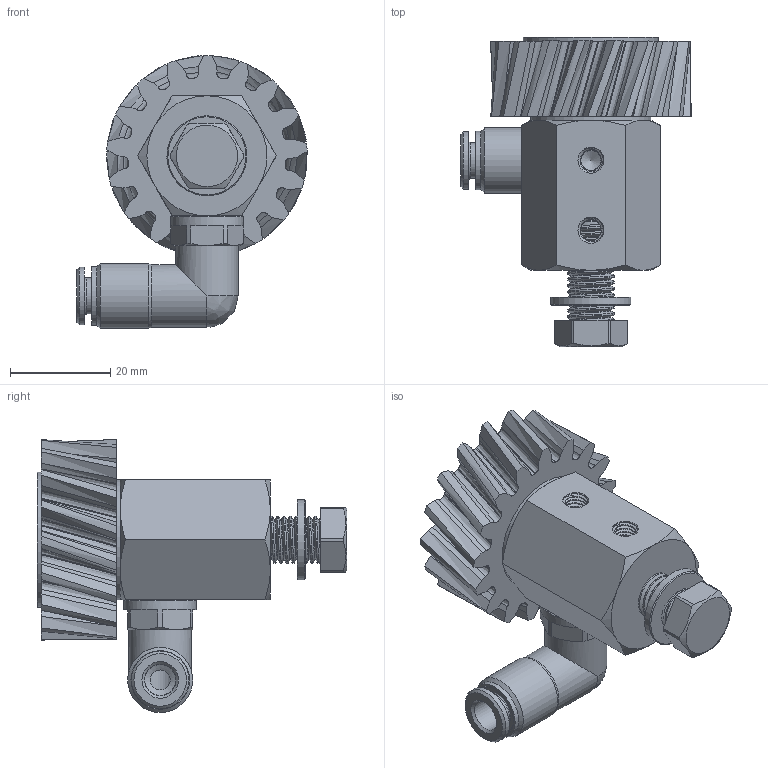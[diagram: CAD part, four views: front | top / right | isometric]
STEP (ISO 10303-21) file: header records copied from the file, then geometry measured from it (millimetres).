
FILE_DESCRIPTION (( 'STEP AP214' ), '1' );
FILE_NAME ('012_13_02_15_17BRZ.STEP', '2026-04-14T11:56:08', ( '' ), ( '' ), 'SwSTEP 2.0', 'SolidWorks 2022', '' );
FILE_SCHEMA (( 'AUTOMOTIVE_DESIGN' ));
Length unit declared in the file: millimetre
Products named in the file (13): U_Scheibe_8,4; 012_13_02_15_17BRZ; Schraube_M8_20; 012_13b_01_winklige_Achse_lang_M8_1; 12012_06_01_Scheibe-CRS-VA_27.SLDASM; 12012_06_00_Scheibe-CRS-VA.SLDASM; H202242_HDS022_6_M10X1_08.05.17(1); OR 7.2X1.9_1; RIVOLUZIONE_0_2; 012_06_Senkschraube; DR6-C_HDX_25.07.16_1; RH202242; Modul_2_S_R_15B
Assembly tree (12 placements, depth 3):
  012_13_02_15_17BRZ
    012_13b_01_winklige_Achse_lang_M8_1
    Schraube_M8_20
    U_Scheibe_8,4
    H202242_HDS022_6_M10X1_08.05.17(1)
      OR 7.2X1.9_1
      RH202242
      DR6-C_HDX_25.07.16_1
      RIVOLUZIONE_0_2
    12012_06_00_Scheibe-CRS-VA.SLDASM
    12012_06_01_Scheibe-CRS-VA_27.SLDASM
    012_06_Senkschraube
    Modul_2_S_R_15B
Bounding box: 46.03 x 61.9 x 54.55 mm (x, y, z)
Volume: 35647.6 mm3; surface area: 18816.5 mm2
Topology: 11 solids, 11 shells, 697 faces, 1906 edges, 1264 vertices
Faces by surface type: plane 317, bspline 252, cylinder 72, cone 53, torus 3
Full cylindrical faces by diameter (mm): 3 x1, 4 x2, 6 x1, 6.2 x1, 6.3 x1, 6.5 x1, 7.2 x1, 8.4 x1, 8.5 x1, 9 x10, 9.9 x1, 10 x3, 10.1 x2, 10.3 x1, 11.5 x1, 11.7 x1, 12.5 x2, 13 x1, 14.5 x1, 16 x1, 24 x1, 27 x1
Entity records: 69661 total; most frequent: CARTESIAN_POINT 53516, ORIENTED_EDGE 3520, DIRECTION 2150, EDGE_CURVE 1760, VERTEX_POINT 1199, LINE 892, VECTOR 892, EDGE_LOOP 811
